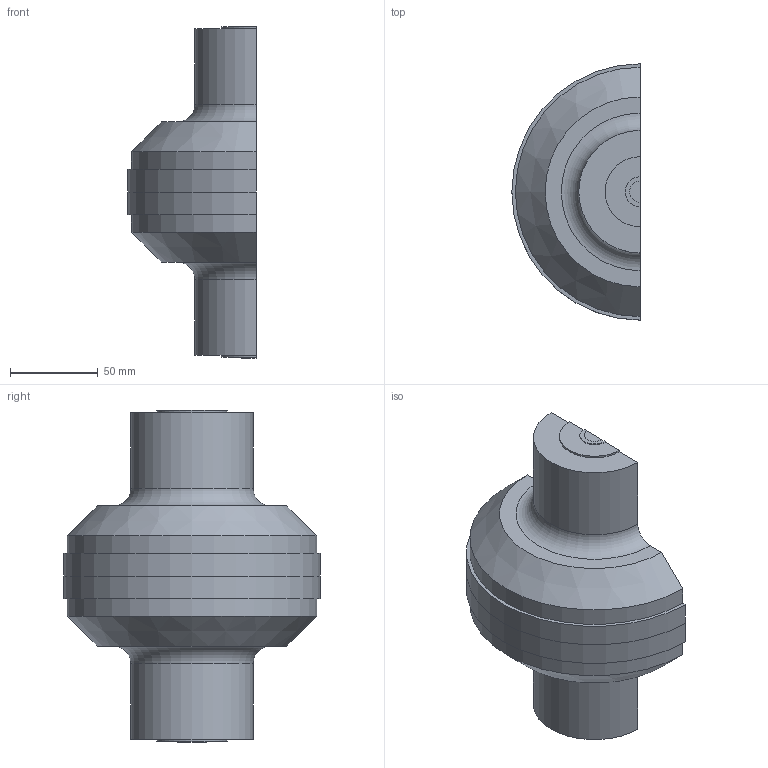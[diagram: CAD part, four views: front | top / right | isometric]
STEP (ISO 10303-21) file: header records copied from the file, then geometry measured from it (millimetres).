
FILE_DESCRIPTION(('FreeCAD Model'),'2;1');
FILE_NAME('G:/FEA/_Ultrasonic-resonators.org/20k/Cylindrical/Unslotted/Shear/UAM welding/UAM1/Shear_mode_horn_20kHz__000_000_164a.step', '2016-03-17T14:16:07',('Author'),(''), 'Open CASCADE STEP processor 6.8','FreeCAD','Unknown');
FILE_SCHEMA(('AUTOMOTIVE_DESIGN_CC2 { 1 2 10303 214 -1 1 5 4 }'));
Length unit declared in the file: millimetre
Products named in the file (5): ASSEMBLY; Revolve_horn; Revolve_horn_mirrored; Revolve_stud; Revolve_stud_mirrored
Assembly tree (4 placements, depth 2):
  ASSEMBLY
    Revolve_horn
    Revolve_horn_mirrored
    Revolve_stud
    Revolve_stud_mirrored
Bounding box: 73.2 x 146.4 x 189.6 mm (x, y, z)
Volume: 800378.1 mm3; surface area: 77859.2 mm2
Topology: 4 solids, 4 shells, 46 faces, 116 edges, 76 vertices
Faces by surface type: plane 24, cylinder 14, cone 6, torus 2
Entity records: 2987 total; most frequent: CARTESIAN_POINT 493, DIRECTION 478, LINE 274, VECTOR 274, ORIENTED_EDGE 228, PCURVE 228, DEFINITIONAL_REPRESENTATION 228, EDGE_CURVE 114
